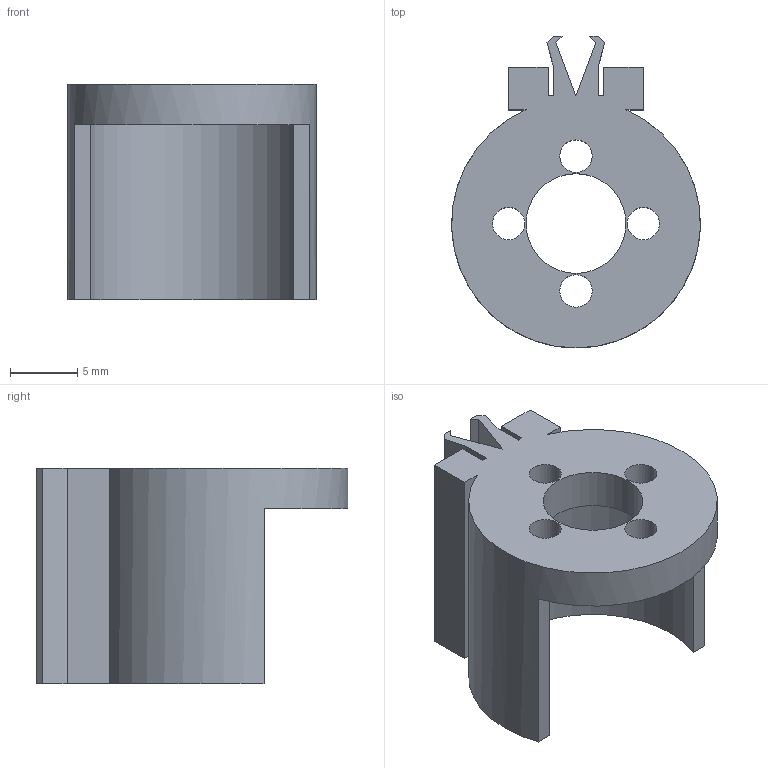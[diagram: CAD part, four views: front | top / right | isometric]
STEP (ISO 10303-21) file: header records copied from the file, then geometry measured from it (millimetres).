
FILE_DESCRIPTION(/* description */ (''),/* implementation_level */ '2;1');
FILE_NAME(/* name */ 'C:/Users/priba/Downloads/mrm-bdc16l50-100Holder.step',/* time_stamp */ '2020-09-13T09:25:43+02:00',/* author */ (''),/* organization */ (''),/* preprocessor_version */ 'ST-DEVELOPER v18.1',/* originating_system */ 'Autodesk Translation Framework v9.3.0.1241',/* authorisation */ '');
FILE_SCHEMA (('AUTOMOTIVE_DESIGN { 1 0 10303 214 3 1 1 }'));
Length unit declared in the file: millimetre
Products named in the file (1): mrm-bdc16l50-100Holder
Bounding box: 18.45 x 23.13 x 16 mm (x, y, z)
Volume: 1548.7 mm3; surface area: 2220.9 mm2
Topology: 1 solids, 1 shells, 35 faces, 99 edges, 66 vertices
Faces by surface type: plane 28, cylinder 7
Full cylindrical faces by diameter (mm): 2.4 x4, 7.4 x1
Entity records: 1171 total; most frequent: CARTESIAN_POINT 201, ORIENTED_EDGE 198, DIRECTION 187, EDGE_CURVE 99, LINE 83, VECTOR 83, VERTEX_POINT 66, AXIS2_PLACEMENT_3D 52
